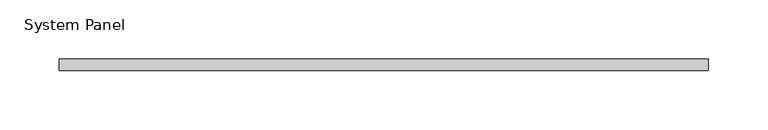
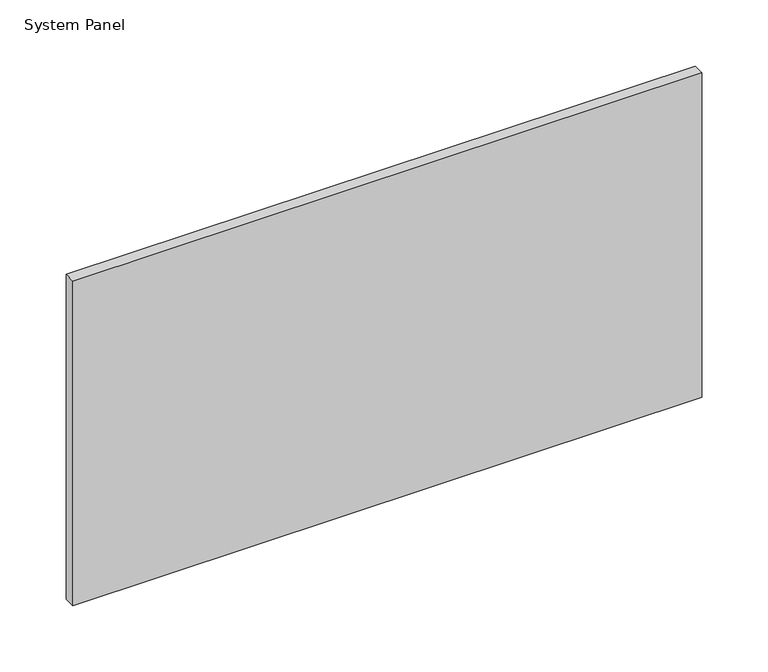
"""IFC4 building model written with IfcOpenShell, lengths in millimetres: plate geometry, System Panel : стекло_смещение_0."""

from ifc_helpers import new_model, si_unit, origin, origin_with_axes, place, context, project, spatial, polyline, outline, extrude, source, transform, mapped, element, save


def system_panel_db4bcac5(model_context):
    return source(origin(), model_context, "Body", "SweptSolid", [
        extrude(outline(polyline([(275.0, -5.0), (-275.0, -5.0), (-275.0, 5.0), (275.0, 5.0), (275.0, -5.0)])), origin_with_axes(), (0.0, 0.0, 1.0), 300.0),
    ])


if __name__ == "__main__":
    model = new_model("IFC4")
    model_context = context("Model", 3, world=origin())
    ifc_project = project(units=[si_unit("LENGTHUNIT", "METRE", prefix="MILLI")], contexts=[model_context])
    site = spatial("IfcSite", under=ifc_project)
    building = spatial("IfcBuilding", under=site)
    placement = place(None, origin())
    system_panel_shape = system_panel_db4bcac5(model_context)
    element("IfcPlate", 1, ObjectType="System Panel : стекло_смещение_0", at=placement, inside=building, context=model_context, shape_type="MappedRepresentation", body=[
        mapped(system_panel_shape, transform((0.0, 0.0, 0.0), x_axis=(1.0, 0.0, 0.0), y_axis=(0.0, 1.0, 0.0), z_axis=(0.0, 0.0, 1.0))),
    ])
    save(model, "model.ifc")
